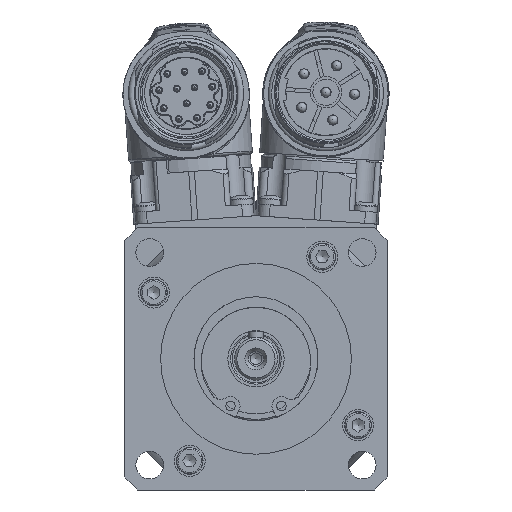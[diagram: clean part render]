
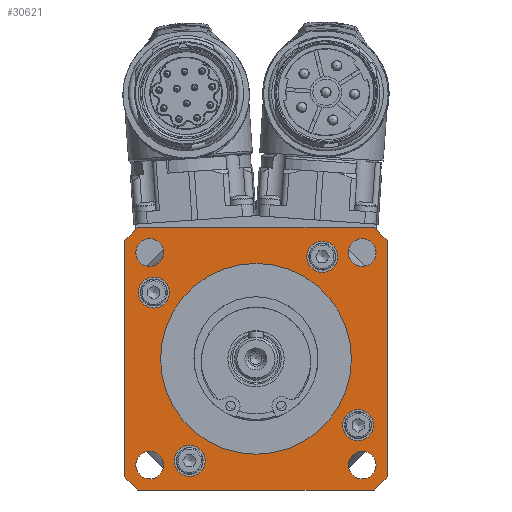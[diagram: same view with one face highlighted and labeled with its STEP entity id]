
A CAD part, left-side view. The second image highlights one B-rep face of the part: STEP entity #30621.
In plain terms, the highlighted planar face has unit normal (-1, 0, 0).
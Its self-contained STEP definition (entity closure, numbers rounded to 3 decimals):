
#1397=FACE_BOUND('',#3955,.T.);
#1398=FACE_BOUND('',#3956,.T.);
#1399=FACE_BOUND('',#3957,.T.);
#1400=FACE_BOUND('',#3958,.T.);
#1401=FACE_BOUND('',#3959,.T.);
#1402=FACE_BOUND('',#3960,.T.);
#1403=FACE_BOUND('',#3961,.T.);
#1404=FACE_BOUND('',#3962,.T.);
#1405=FACE_BOUND('',#3963,.T.);
#1643=PLANE('',#32891);
#2185=FACE_OUTER_BOUND('',#3954,.T.);
#3954=EDGE_LOOP('',(#19316,#19317,#19318,#19319,#19320,#19321,#19322,#19323));
#3955=EDGE_LOOP('',(#19324));
#3956=EDGE_LOOP('',(#19325));
#3957=EDGE_LOOP('',(#19326));
#3958=EDGE_LOOP('',(#19327));
#3959=EDGE_LOOP('',(#19328));
#3960=EDGE_LOOP('',(#19329));
#3961=EDGE_LOOP('',(#19330));
#3962=EDGE_LOOP('',(#19331));
#3963=EDGE_LOOP('',(#19332,#19333));
#6122=CIRCLE('',#32889,20.);
#6123=CIRCLE('',#32890,20.);
#6124=CIRCLE('',#32892,37.);
#6125=CIRCLE('',#32893,37.);
#6126=CIRCLE('',#32894,37.);
#6127=CIRCLE('',#32895,37.);
#6128=CIRCLE('',#32896,3.25);
#6129=CIRCLE('',#32897,3.25);
#6130=CIRCLE('',#32898,3.25);
#6131=CIRCLE('',#32899,3.25);
#6132=CIRCLE('',#32900,2.9);
#6133=CIRCLE('',#32901,2.9);
#6134=CIRCLE('',#32902,2.9);
#6135=CIRCLE('',#32903,2.9);
#8144=LINE('',#46139,#9694);
#8145=LINE('',#46143,#9695);
#8146=LINE('',#46147,#9696);
#8147=LINE('',#46151,#9697);
#9694=VECTOR('',#37046,10.);
#9695=VECTOR('',#37049,10.);
#9696=VECTOR('',#37052,10.);
#9697=VECTOR('',#37055,10.);
#11345=VERTEX_POINT('',#46131);
#11346=VERTEX_POINT('',#46132);
#11347=VERTEX_POINT('',#46137);
#11348=VERTEX_POINT('',#46138);
#11349=VERTEX_POINT('',#46140);
#11350=VERTEX_POINT('',#46142);
#11351=VERTEX_POINT('',#46144);
#11352=VERTEX_POINT('',#46146);
#11353=VERTEX_POINT('',#46148);
#11354=VERTEX_POINT('',#46150);
#11355=VERTEX_POINT('',#46153);
#11356=VERTEX_POINT('',#46155);
#11357=VERTEX_POINT('',#46157);
#11358=VERTEX_POINT('',#46159);
#11359=VERTEX_POINT('',#46161);
#11360=VERTEX_POINT('',#46163);
#11361=VERTEX_POINT('',#46165);
#11362=VERTEX_POINT('',#46167);
#14412=EDGE_CURVE('',#11345,#11346,#6122,.T.);
#14414=EDGE_CURVE('',#11346,#11345,#6123,.T.);
#14415=EDGE_CURVE('',#11347,#11348,#8144,.T.);
#14416=EDGE_CURVE('',#11349,#11347,#6124,.T.);
#14417=EDGE_CURVE('',#11350,#11349,#8145,.T.);
#14418=EDGE_CURVE('',#11351,#11350,#6125,.T.);
#14419=EDGE_CURVE('',#11352,#11351,#8146,.T.);
#14420=EDGE_CURVE('',#11353,#11352,#6126,.T.);
#14421=EDGE_CURVE('',#11354,#11353,#8147,.T.);
#14422=EDGE_CURVE('',#11348,#11354,#6127,.T.);
#14423=EDGE_CURVE('',#11355,#11355,#6128,.T.);
#14424=EDGE_CURVE('',#11356,#11356,#6129,.T.);
#14425=EDGE_CURVE('',#11357,#11357,#6130,.T.);
#14426=EDGE_CURVE('',#11358,#11358,#6131,.T.);
#14427=EDGE_CURVE('',#11359,#11359,#6132,.T.);
#14428=EDGE_CURVE('',#11360,#11360,#6133,.T.);
#14429=EDGE_CURVE('',#11361,#11361,#6134,.T.);
#14430=EDGE_CURVE('',#11362,#11362,#6135,.T.);
#19316=ORIENTED_EDGE('',*,*,#14415,.F.);
#19317=ORIENTED_EDGE('',*,*,#14416,.F.);
#19318=ORIENTED_EDGE('',*,*,#14417,.F.);
#19319=ORIENTED_EDGE('',*,*,#14418,.F.);
#19320=ORIENTED_EDGE('',*,*,#14419,.F.);
#19321=ORIENTED_EDGE('',*,*,#14420,.F.);
#19322=ORIENTED_EDGE('',*,*,#14421,.F.);
#19323=ORIENTED_EDGE('',*,*,#14422,.F.);
#19324=ORIENTED_EDGE('',*,*,#14423,.F.);
#19325=ORIENTED_EDGE('',*,*,#14424,.F.);
#19326=ORIENTED_EDGE('',*,*,#14425,.F.);
#19327=ORIENTED_EDGE('',*,*,#14426,.F.);
#19328=ORIENTED_EDGE('',*,*,#14427,.F.);
#19329=ORIENTED_EDGE('',*,*,#14428,.F.);
#19330=ORIENTED_EDGE('',*,*,#14429,.F.);
#19331=ORIENTED_EDGE('',*,*,#14430,.F.);
#19332=ORIENTED_EDGE('',*,*,#14412,.F.);
#19333=ORIENTED_EDGE('',*,*,#14414,.F.);
#30621=ADVANCED_FACE('',(#2185,#1397,#1398,#1399,#1400,#1401,#1402,#1403,
#1404,#1405),#1643,.F.);
#32889=AXIS2_PLACEMENT_3D('',#46133,#37039,#37040);
#32890=AXIS2_PLACEMENT_3D('',#46135,#37042,#37043);
#32891=AXIS2_PLACEMENT_3D('',#46136,#37044,#37045);
#32892=AXIS2_PLACEMENT_3D('',#46141,#37047,#37048);
#32893=AXIS2_PLACEMENT_3D('',#46145,#37050,#37051);
#32894=AXIS2_PLACEMENT_3D('',#46149,#37053,#37054);
#32895=AXIS2_PLACEMENT_3D('',#46152,#37056,#37057);
#32896=AXIS2_PLACEMENT_3D('',#46154,#37058,#37059);
#32897=AXIS2_PLACEMENT_3D('',#46156,#37060,#37061);
#32898=AXIS2_PLACEMENT_3D('',#46158,#37062,#37063);
#32899=AXIS2_PLACEMENT_3D('',#46160,#37064,#37065);
#32900=AXIS2_PLACEMENT_3D('',#46162,#37066,#37067);
#32901=AXIS2_PLACEMENT_3D('',#46164,#37068,#37069);
#32902=AXIS2_PLACEMENT_3D('',#46166,#37070,#37071);
#32903=AXIS2_PLACEMENT_3D('',#46168,#37072,#37073);
#37039=DIRECTION('center_axis',(-1.,0.,0.));
#37040=DIRECTION('ref_axis',(0.,0.,
1.));
#37042=DIRECTION('center_axis',(-1.,0.,0.));
#37043=DIRECTION('ref_axis',(0.,0.,
1.));
#37044=DIRECTION('center_axis',(1.,0.,0.));
#37045=DIRECTION('ref_axis',(0.,0.,
-1.));
#37046=DIRECTION('',(0.,-1.,0.));
#37047=DIRECTION('center_axis',(1.,0.,0.));
#37048=DIRECTION('ref_axis',(0.,0.,
1.));
#37049=DIRECTION('',(0.,0.,1.));
#37050=DIRECTION('center_axis',(1.,0.,0.));
#37051=DIRECTION('ref_axis',(0.,0.,
1.));
#37052=DIRECTION('',(0.,1.,0.));
#37053=DIRECTION('center_axis',(1.,0.,0.));
#37054=DIRECTION('ref_axis',(0.,0.,
1.));
#37055=DIRECTION('',(0.,0.,-1.));
#37056=DIRECTION('center_axis',(1.,0.,0.));
#37057=DIRECTION('ref_axis',(0.,0.,
1.));
#37058=DIRECTION('center_axis',(-1.,0.,0.));
#37059=DIRECTION('ref_axis',(0.,0.,
1.));
#37060=DIRECTION('center_axis',(-1.,0.,0.));
#37061=DIRECTION('ref_axis',(0.,1.,0.));
#37062=DIRECTION('center_axis',(-1.,0.,0.));
#37063=DIRECTION('ref_axis',(0.,0.,
-1.));
#37064=DIRECTION('center_axis',(-1.,0.,0.));
#37065=DIRECTION('ref_axis',(0.,-1.,0.));
#37066=DIRECTION('center_axis',(-1.,0.,0.));
#37067=DIRECTION('ref_axis',(0.,0.,
1.));
#37068=DIRECTION('center_axis',(-1.,0.,0.));
#37069=DIRECTION('ref_axis',(0.,1.,0.));
#37070=DIRECTION('center_axis',(-1.,0.,0.));
#37071=DIRECTION('ref_axis',(0.,0.,
-1.));
#37072=DIRECTION('center_axis',(-1.,0.,0.));
#37073=DIRECTION('ref_axis',(0.,-1.,0.));
#46131=CARTESIAN_POINT('',(-24.75,0.,20.));
#46132=CARTESIAN_POINT('',(-24.75,0.,-20.));
#46133=CARTESIAN_POINT('Origin',(-24.75,0.,0.));
#46135=CARTESIAN_POINT('Origin',(-24.75,0.,0.));
#46136=CARTESIAN_POINT('Origin',(-24.75,0.,49.909));
#46137=CARTESIAN_POINT('',(-24.75,24.754,27.5));
#46138=CARTESIAN_POINT('',(-24.75,-24.754,27.5));
#46139=CARTESIAN_POINT('',(-24.75,13.75,27.5));
#46140=CARTESIAN_POINT('',(-24.75,27.5,24.754));
#46141=CARTESIAN_POINT('Origin',(-24.75,0.,0.));
#46142=CARTESIAN_POINT('',(-24.75,27.5,-24.754));
#46143=CARTESIAN_POINT('',(-24.75,27.5,11.204));
#46144=CARTESIAN_POINT('',(-24.75,24.754,-27.5));
#46145=CARTESIAN_POINT('Origin',(-24.75,0.,0.));
#46146=CARTESIAN_POINT('',(-24.75,-24.754,-27.5));
#46147=CARTESIAN_POINT('',(-24.75,-13.75,-27.5));
#46148=CARTESIAN_POINT('',(-24.75,-27.5,-24.754));
#46149=CARTESIAN_POINT('Origin',(-24.75,0.,0.));
#46150=CARTESIAN_POINT('',(-24.75,-27.5,24.754));
#46151=CARTESIAN_POINT('',(-24.75,-27.5,38.704));
#46152=CARTESIAN_POINT('Origin',(-24.75,0.,0.));
#46153=CARTESIAN_POINT('',(-24.75,21.4,10.65));
#46154=CARTESIAN_POINT('Origin',(-24.75,21.4,13.9));
#46155=CARTESIAN_POINT('',(-24.75,10.65,-21.4));
#46156=CARTESIAN_POINT('Origin',(-24.75,13.9,-21.4));
#46157=CARTESIAN_POINT('',(-24.75,-21.4,-10.65));
#46158=CARTESIAN_POINT('Origin',(-24.75,-21.4,-13.9));
#46159=CARTESIAN_POINT('',(-24.75,-10.65,21.4));
#46160=CARTESIAN_POINT('Origin',(-24.75,-13.9,21.4));
#46161=CARTESIAN_POINT('',(-24.75,22.274,-25.174));
#46162=CARTESIAN_POINT('Origin',(-24.75,22.274,-22.274));
#46163=CARTESIAN_POINT('',(-24.75,-25.174,-22.274));
#46164=CARTESIAN_POINT('Origin',(-24.75,-22.274,-22.274));
#46165=CARTESIAN_POINT('',(-24.75,-22.274,25.174));
#46166=CARTESIAN_POINT('Origin',(-24.75,-22.274,22.274));
#46167=CARTESIAN_POINT('',(-24.75,25.174,22.274));
#46168=CARTESIAN_POINT('Origin',(-24.75,22.274,22.274));
